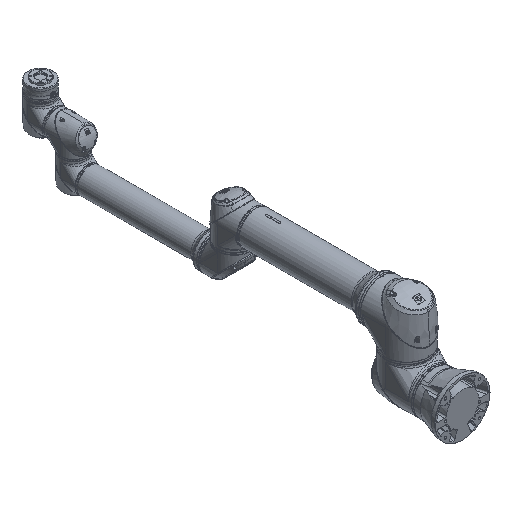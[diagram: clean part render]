
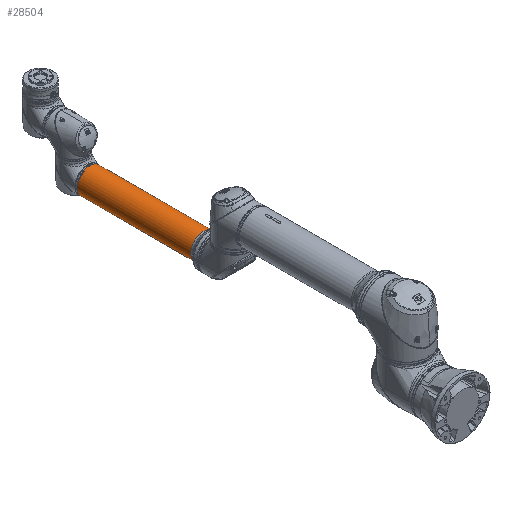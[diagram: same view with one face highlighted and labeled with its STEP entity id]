
A CAD part, isometric view. The second image highlights one B-rep face of the part: STEP entity #28504.
In plain terms, the highlighted cylindrical face has radius 45 mm (diameter 90 mm), a full revolution.
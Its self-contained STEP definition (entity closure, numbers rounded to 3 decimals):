
#2842=CYLINDRICAL_SURFACE('',#30885,45.);
#3481=LINE('',#138985,#4817);
#4817=VECTOR('',#34506,45.);
#8309=FACE_OUTER_BOUND('',#10079,.T.);
#10079=EDGE_LOOP('',(#22926,#22927,#22928,#22929));
#11554=CIRCLE('',#30884,45.);
#11555=CIRCLE('',#30886,45.);
#13238=VERTEX_POINT('',#138980);
#13239=VERTEX_POINT('',#138984);
#16692=EDGE_CURVE('',#13238,#13238,#11554,.T.);
#16693=EDGE_CURVE('',#13238,#13239,#3481,.T.);
#16694=EDGE_CURVE('',#13239,#13239,#11555,.T.);
#22926=ORIENTED_EDGE('',*,*,#16692,.F.);
#22927=ORIENTED_EDGE('',*,*,#16693,.T.);
#22928=ORIENTED_EDGE('',*,*,#16694,.F.);
#22929=ORIENTED_EDGE('',*,*,#16693,.F.);
#28504=ADVANCED_FACE('',(#8309),#2842,.T.);
#30884=AXIS2_PLACEMENT_3D('',#138982,#34502,#34503);
#30885=AXIS2_PLACEMENT_3D('',#138983,#34504,#34505);
#30886=AXIS2_PLACEMENT_3D('',#138986,#34507,#34508);
#34502=DIRECTION('center_axis',(0.,-1.,0.));
#34503=DIRECTION('ref_axis',(-0.673,0.,0.739));
#34504=DIRECTION('center_axis',(0.,-1.,0.));
#34505=DIRECTION('ref_axis',(-0.673,0.,0.739));
#34506=DIRECTION('',(0.,1.,0.));
#34507=DIRECTION('center_axis',(0.,1.,0.));
#34508=DIRECTION('ref_axis',(0.673,0.,-0.739));
#138980=CARTESIAN_POINT('',(30.299,-457.787,-105.071));
#138982=CARTESIAN_POINT('Origin',(0.,-457.787,
-71.8));
#138983=CARTESIAN_POINT('Origin',(0.,-67.307,
-71.8));
#138984=CARTESIAN_POINT('',(30.299,-53.887,-105.071));
#138985=CARTESIAN_POINT('',(30.299,-67.307,-105.071));
#138986=CARTESIAN_POINT('Origin',(0.,-53.887,
-71.8));
